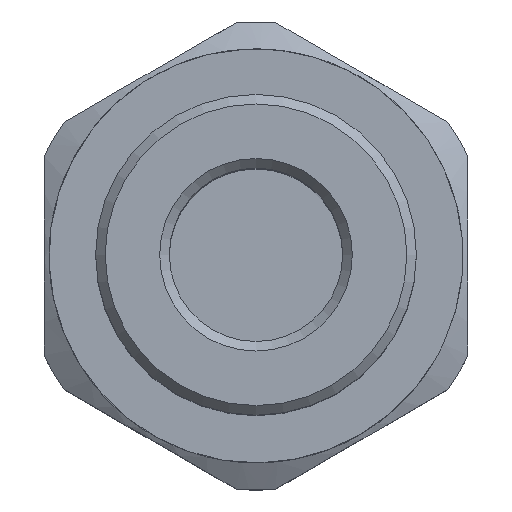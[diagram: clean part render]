
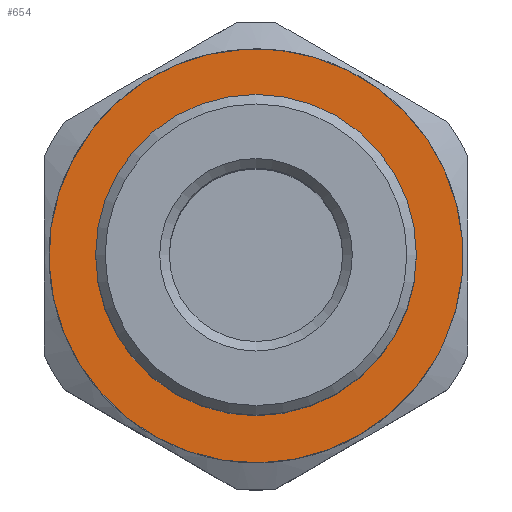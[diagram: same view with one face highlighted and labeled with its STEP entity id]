
A CAD part, top view. The second image highlights one B-rep face of the part: STEP entity #654.
In plain terms, the highlighted planar face has unit normal (0, 0, 1).
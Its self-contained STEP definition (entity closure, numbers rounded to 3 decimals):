
#64=CIRCLE('',#702,10.75);
#67=CIRCLE('',#708,8.175);
#79=PLANE('',#707);
#169=ORIENTED_EDGE('',*,*,#236,.F.);
#170=ORIENTED_EDGE('',*,*,#239,.T.);
#236=EDGE_CURVE('',#279,#279,#64,.T.);
#239=EDGE_CURVE('',#282,#282,#67,.F.);
#279=VERTEX_POINT('',#1048);
#282=VERTEX_POINT('',#1057);
#339=EDGE_LOOP('',(#169));
#340=EDGE_LOOP('',(#170));
#391=FACE_BOUND('',#339,.T.);
#392=FACE_BOUND('',#340,.T.);
#654=ADVANCED_FACE('',(#391,#392),#79,.T.);
#702=AXIS2_PLACEMENT_3D('',#1047,#803,#804);
#707=AXIS2_PLACEMENT_3D('',#1055,#813,#814);
#708=AXIS2_PLACEMENT_3D('',#1056,#815,#816);
#803=DIRECTION('',(0.,0.,-1.));
#804=DIRECTION('',(0.866,-0.5,0.));
#813=DIRECTION('',(0.,0.,1.));
#814=DIRECTION('',(1.,0.,0.));
#815=DIRECTION('',(0.,0.,1.));
#816=DIRECTION('',(1.,0.,0.));
#1047=CARTESIAN_POINT('',(0.,0.,9.));
#1048=CARTESIAN_POINT('',(9.31,-5.375,9.));
#1055=CARTESIAN_POINT('',(3.464,2.,9.));
#1056=CARTESIAN_POINT('',(0.,0.,9.));
#1057=CARTESIAN_POINT('',(8.175,0.,9.));
